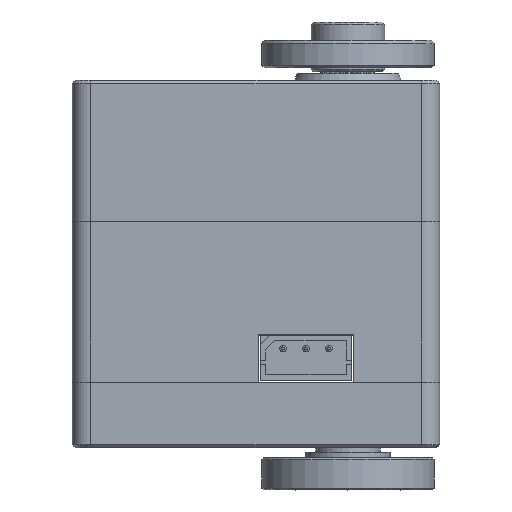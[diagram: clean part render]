
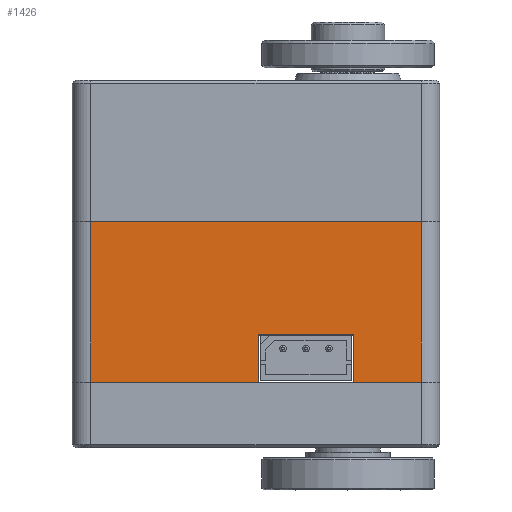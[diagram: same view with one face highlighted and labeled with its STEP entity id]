
A CAD part, front view. The second image highlights one B-rep face of the part: STEP entity #1426.
In plain terms, the highlighted planar face has unit normal (0, -1, 0).
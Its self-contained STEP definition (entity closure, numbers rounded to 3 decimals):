
#620=DIRECTION('',(0.,0.,-1.));
#621=VECTOR('',#620,5.15);
#622=CARTESIAN_POINT('',(0.25,-10.001,-12.3));
#623=LINE('',#622,#621);
#627=DIRECTION('',(-1.,0.,0.));
#628=VECTOR('',#627,18.25);
#629=CARTESIAN_POINT('',(0.25,-10.001,-17.45));
#630=LINE('',#629,#628);
#634=DIRECTION('',(1.,0.,0.));
#635=VECTOR('',#634,36.);
#636=CARTESIAN_POINT('',(-18.,-10.001,0.));
#637=LINE('',#636,#635);
#641=DIRECTION('',(-1.,0.,0.));
#642=VECTOR('',#641,7.35);
#643=CARTESIAN_POINT('',(18.,-10.001,-17.45));
#644=LINE('',#643,#642);
#662=DIRECTION('',(1.,0.,0.));
#663=VECTOR('',#662,10.4);
#664=CARTESIAN_POINT('',(0.25,-10.001,-12.3));
#665=LINE('',#664,#663);
#683=DIRECTION('',(0.,0.,-1.));
#684=VECTOR('',#683,5.15);
#685=CARTESIAN_POINT('',(10.65,-10.001,-12.3));
#686=LINE('',#685,#684);
#746=DIRECTION('',(0.,0.,-1.));
#747=VECTOR('',#746,17.45);
#748=CARTESIAN_POINT('',(-18.,-10.001,0.));
#749=LINE('',#748,#747);
#774=DIRECTION('',(0.,0.,1.));
#775=VECTOR('',#774,17.45);
#776=CARTESIAN_POINT('',(18.,-10.001,-17.45));
#777=LINE('',#776,#775);
#806=CARTESIAN_POINT('',(18.,-10.001,0.));
#807=VERTEX_POINT('',#806);
#808=CARTESIAN_POINT('',(-18.,-10.001,0.));
#809=VERTEX_POINT('',#808);
#834=CARTESIAN_POINT('',(-18.,-10.001,-17.45));
#835=VERTEX_POINT('',#834);
#836=CARTESIAN_POINT('',(0.25,-10.001,-17.45));
#837=VERTEX_POINT('',#836);
#858=CARTESIAN_POINT('',(10.65,-10.001,-17.45));
#859=VERTEX_POINT('',#858);
#860=CARTESIAN_POINT('',(18.,-10.001,-17.45));
#861=VERTEX_POINT('',#860);
#890=CARTESIAN_POINT('',(0.25,-10.001,-12.3));
#891=CARTESIAN_POINT('',(10.65,-10.001,-12.3));
#892=VERTEX_POINT('',#890);
#893=VERTEX_POINT('',#891);
#1407=CARTESIAN_POINT('',(-18.,-10.001,0.));
#1408=DIRECTION('',(0.,1.,0.));
#1409=DIRECTION('',(1.,0.,0.));
#1410=AXIS2_PLACEMENT_3D('',#1407,#1408,#1409);
#1411=PLANE('',#1410);
#1413=ORIENTED_EDGE('',*,*,#1412,.F.);
#1414=ORIENTED_EDGE('',*,*,#1400,.T.);
#1415=ORIENTED_EDGE('',*,*,#1285,.T.);
#1417=ORIENTED_EDGE('',*,*,#1416,.F.);
#1418=ORIENTED_EDGE('',*,*,#955,.T.);
#1420=ORIENTED_EDGE('',*,*,#1419,.F.);
#1421=ORIENTED_EDGE('',*,*,#1020,.T.);
#1423=ORIENTED_EDGE('',*,*,#1422,.F.);
#1424=EDGE_LOOP('',(#1413,#1414,#1415,#1417,#1418,#1420,#1421,#1423));
#1425=FACE_OUTER_BOUND('',#1424,.F.);
#955=EDGE_CURVE('',#809,#807,#637,.T.);
#1020=EDGE_CURVE('',#861,#859,#644,.T.);
#1285=EDGE_CURVE('',#837,#835,#630,.T.);
#1400=EDGE_CURVE('',#892,#837,#623,.T.);
#1412=EDGE_CURVE('',#892,#893,#665,.T.);
#1416=EDGE_CURVE('',#809,#835,#749,.T.);
#1419=EDGE_CURVE('',#861,#807,#777,.T.);
#1422=EDGE_CURVE('',#893,#859,#686,.T.);
#1426=ADVANCED_FACE('',(#1425),#1411,.F.);
